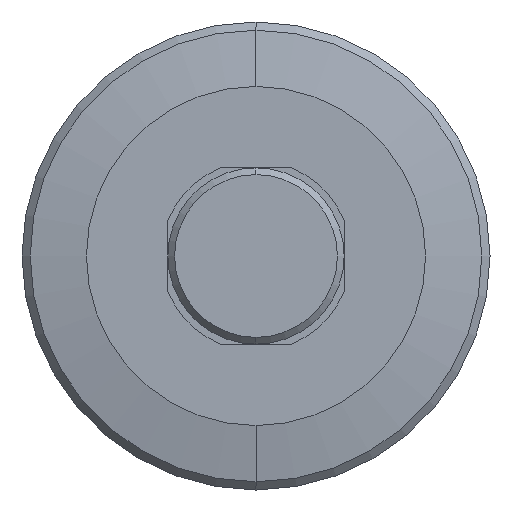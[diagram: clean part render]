
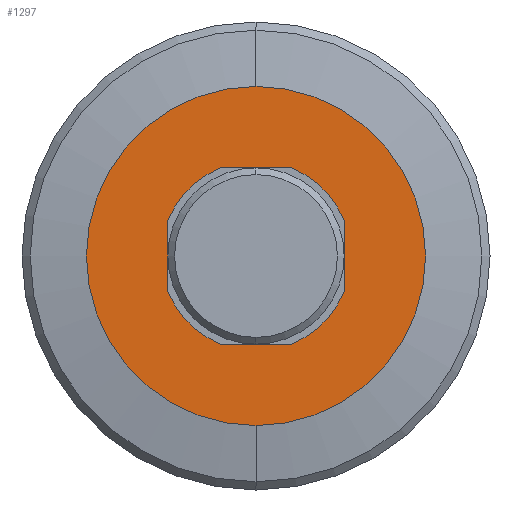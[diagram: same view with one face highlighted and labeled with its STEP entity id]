
A CAD part, left-side view. The second image highlights one B-rep face of the part: STEP entity #1297.
In plain terms, the highlighted planar face has unit normal (-1, 0, 0).
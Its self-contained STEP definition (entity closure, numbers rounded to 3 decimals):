
#41 = DIRECTION ( 'NONE',  ( 0., 1., 0. ) ) ;
#52 = ORIENTED_EDGE ( 'NONE', *, *, #772, .F. ) ;
#56 = VERTEX_POINT ( 'NONE', #1225 ) ;
#99 = DIRECTION ( 'NONE',  ( 0., 0., 1. ) ) ;
#100 = FACE_OUTER_BOUND ( 'NONE', #534, .T. ) ;
#101 = EDGE_CURVE ( 'NONE', #189, #935, #710, .T. ) ;
#137 = VECTOR ( 'NONE', #434, 1000. ) ;
#138 = VECTOR ( 'NONE', #498, 1000. ) ;
#163 = DIRECTION ( 'NONE',  ( -1., 0., 0. ) ) ;
#169 = LINE ( 'NONE', #345, #1250 ) ;
#178 = ORIENTED_EDGE ( 'NONE', *, *, #520, .F. ) ;
#189 = VERTEX_POINT ( 'NONE', #1054 ) ;
#197 = EDGE_CURVE ( 'NONE', #792, #189, #1083, .T. ) ;
#214 = EDGE_CURVE ( 'NONE', #1334, #792, #1057, .T. ) ;
#226 = AXIS2_PLACEMENT_3D ( 'NONE', #800, #163, #906 ) ;
#258 = PLANE ( 'NONE',  #290 ) ;
#281 = EDGE_LOOP ( 'NONE', ( #630, #951, #178, #52, #1208, #1324, #902, #367 ) ) ;
#290 = AXIS2_PLACEMENT_3D ( 'NONE', #1311, #1097, #481 ) ;
#345 = CARTESIAN_POINT ( 'NONE',  ( 57., 25., 13. ) ) ;
#367 = ORIENTED_EDGE ( 'NONE', *, *, #101, .F. ) ;
#376 = AXIS2_PLACEMENT_3D ( 'NONE', #547, #501, #497 ) ;
#382 = CARTESIAN_POINT ( 'NONE',  ( 57., -13., 0. ) ) ;
#406 = CIRCLE ( 'NONE', #1052, 14. ) ;
#415 = ORIENTED_EDGE ( 'NONE', *, *, #930, .T. ) ;
#431 = VERTEX_POINT ( 'NONE', #783 ) ;
#434 = DIRECTION ( 'NONE',  ( 0., 0., 1. ) ) ;
#464 = CARTESIAN_POINT ( 'NONE',  ( 57., 0., -25. ) ) ;
#473 = VECTOR ( 'NONE', #507, 1000. ) ;
#478 = CARTESIAN_POINT ( 'NONE',  ( 57., 0., 0. ) ) ;
#481 = DIRECTION ( 'NONE',  ( 0., 0., -1. ) ) ;
#497 = DIRECTION ( 'NONE',  ( 0., 0., 1. ) ) ;
#498 = DIRECTION ( 'NONE',  ( 0., 0., -1. ) ) ;
#501 = DIRECTION ( 'NONE',  ( -1., 0., 0. ) ) ;
#507 = DIRECTION ( 'NONE',  ( 0., -1., 0. ) ) ;
#516 = CARTESIAN_POINT ( 'NONE',  ( 57., 25., -13. ) ) ;
#520 = EDGE_CURVE ( 'NONE', #972, #1334, #406, .T. ) ;
#522 = CARTESIAN_POINT ( 'NONE',  ( 57., 13., 5.196 ) ) ;
#529 = CIRCLE ( 'NONE', #752, 14. ) ;
#534 = EDGE_LOOP ( 'NONE', ( #415, #596 ) ) ;
#537 = CARTESIAN_POINT ( 'NONE',  ( 57., 0., 0. ) ) ;
#547 = CARTESIAN_POINT ( 'NONE',  ( 57., 0., 0. ) ) ;
#585 = DIRECTION ( 'NONE',  ( 0., 0., 1. ) ) ;
#591 = DIRECTION ( 'NONE',  ( -1., 0., 0. ) ) ;
#596 = ORIENTED_EDGE ( 'NONE', *, *, #1275, .T. ) ;
#605 = CARTESIAN_POINT ( 'NONE',  ( 57., 13., 0. ) ) ;
#615 = VERTEX_POINT ( 'NONE', #464 ) ;
#630 = ORIENTED_EDGE ( 'NONE', *, *, #197, .F. ) ;
#644 = VERTEX_POINT ( 'NONE', #684 ) ;
#670 = FACE_BOUND ( 'NONE', #281, .T. ) ;
#684 = CARTESIAN_POINT ( 'NONE',  ( 57., 5.196, 13. ) ) ;
#686 = EDGE_CURVE ( 'NONE', #935, #56, #529, .T. ) ;
#710 = LINE ( 'NONE', #382, #137 ) ;
#740 = DIRECTION ( 'NONE',  ( -1., 0., 0. ) ) ;
#752 = AXIS2_PLACEMENT_3D ( 'NONE', #1202, #591, #1314 ) ;
#756 = DIRECTION ( 'NONE',  ( 0., 0., 1. ) ) ;
#772 = EDGE_CURVE ( 'NONE', #873, #972, #1257, .T. ) ;
#783 = CARTESIAN_POINT ( 'NONE',  ( 57., 0., 25. ) ) ;
#792 = VERTEX_POINT ( 'NONE', #1228 ) ;
#800 = CARTESIAN_POINT ( 'NONE',  ( 57., 0., 0. ) ) ;
#804 = CARTESIAN_POINT ( 'NONE',  ( 57., 5.196, -13. ) ) ;
#873 = VERTEX_POINT ( 'NONE', #522 ) ;
#902 = ORIENTED_EDGE ( 'NONE', *, *, #686, .F. ) ;
#906 = DIRECTION ( 'NONE',  ( 0., 0., 1. ) ) ;
#916 = CIRCLE ( 'NONE', #226, 14. ) ;
#930 = EDGE_CURVE ( 'NONE', #615, #431, #1333, .T. ) ;
#935 = VERTEX_POINT ( 'NONE', #942 ) ;
#942 = CARTESIAN_POINT ( 'NONE',  ( 57., -13., 5.196 ) ) ;
#951 = ORIENTED_EDGE ( 'NONE', *, *, #214, .F. ) ;
#972 = VERTEX_POINT ( 'NONE', #1256 ) ;
#979 = CIRCLE ( 'NONE', #1235, 25. ) ;
#992 = DIRECTION ( 'NONE',  ( -1., 0., 0. ) ) ;
#1052 = AXIS2_PLACEMENT_3D ( 'NONE', #537, #992, #756 ) ;
#1054 = CARTESIAN_POINT ( 'NONE',  ( 57., -13., -5.196 ) ) ;
#1057 = LINE ( 'NONE', #516, #473 ) ;
#1064 = AXIS2_PLACEMENT_3D ( 'NONE', #1351, #740, #99 ) ;
#1083 = CIRCLE ( 'NONE', #376, 14. ) ;
#1097 = DIRECTION ( 'NONE',  ( 1., 0., 0. ) ) ;
#1194 = DIRECTION ( 'NONE',  ( -1., 0., 0. ) ) ;
#1202 = CARTESIAN_POINT ( 'NONE',  ( 57., 0., 0. ) ) ;
#1208 = ORIENTED_EDGE ( 'NONE', *, *, #1298, .F. ) ;
#1225 = CARTESIAN_POINT ( 'NONE',  ( 57., -5.196, 13. ) ) ;
#1228 = CARTESIAN_POINT ( 'NONE',  ( 57., -5.196, -13. ) ) ;
#1235 = AXIS2_PLACEMENT_3D ( 'NONE', #478, #1194, #585 ) ;
#1250 = VECTOR ( 'NONE', #41, 1000. ) ;
#1252 = EDGE_CURVE ( 'NONE', #56, #644, #169, .T. ) ;
#1256 = CARTESIAN_POINT ( 'NONE',  ( 57., 13., -5.196 ) ) ;
#1257 = LINE ( 'NONE', #605, #138 ) ;
#1275 = EDGE_CURVE ( 'NONE', #431, #615, #979, .T. ) ;
#1297 = ADVANCED_FACE ( 'NONE', ( #100, #670 ), #258, .F. ) ;
#1298 = EDGE_CURVE ( 'NONE', #644, #873, #916, .T. ) ;
#1311 = CARTESIAN_POINT ( 'NONE',  ( 57., 25., 0. ) ) ;
#1314 = DIRECTION ( 'NONE',  ( 0., 0., 1. ) ) ;
#1324 = ORIENTED_EDGE ( 'NONE', *, *, #1252, .F. ) ;
#1333 = CIRCLE ( 'NONE', #1064, 25. ) ;
#1334 = VERTEX_POINT ( 'NONE', #804 ) ;
#1351 = CARTESIAN_POINT ( 'NONE',  ( 57., 0., 0. ) ) ;
